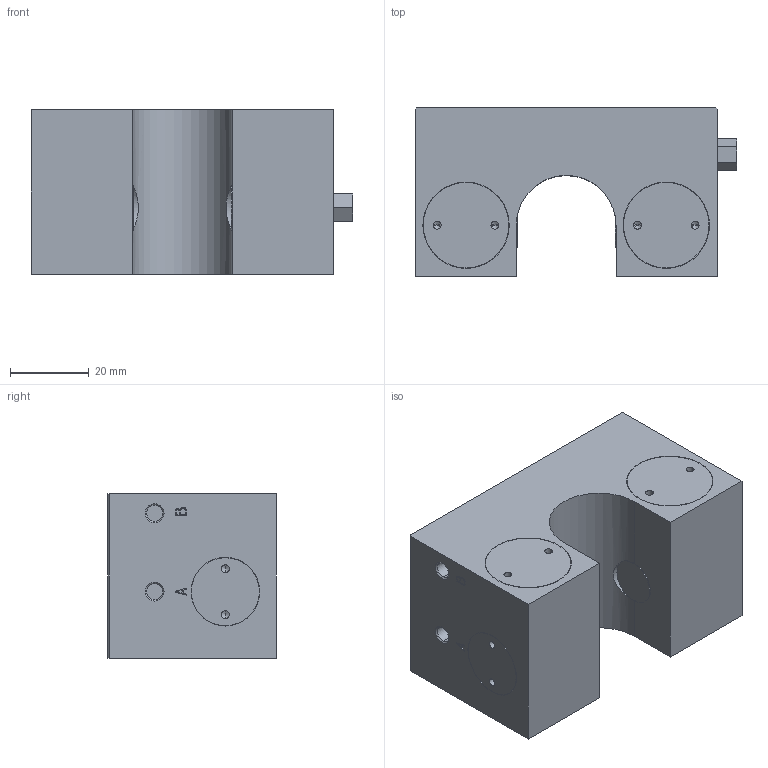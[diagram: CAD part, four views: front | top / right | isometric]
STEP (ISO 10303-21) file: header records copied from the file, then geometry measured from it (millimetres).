
FILE_DESCRIPTION( ( '' ), '1' );
FILE_NAME( 'E:/04 嬴檜蠱滌/0404 ZIMMER/040414 ZIMMER CAD download/MKR/MKR2500A.stp', '2020-04-16T10:10:09', ( '' ), ( '' ), ' ', ' ', ' ' );
FILE_SCHEMA( ( 'automotive_design' ) );
Length unit declared in the file: millimetre
Products named in the file (1): 1
Bounding box: 82 x 43 x 42 mm (x, y, z)
Volume: 111657.4 mm3; surface area: 20931.1 mm2
Topology: 1 solids, 2 shells, 184 faces, 426 edges, 264 vertices
Faces by surface type: plane 87, cylinder 65, cone 32
Entity records: 10132 total; most frequent: CARTESIAN_POINT 1049, DIRECTION 914, STYLED_ITEM 859, PRESENTATION_STYLE_ASSIGNMENT 859, COLOUR_RGB 859, ORIENTED_EDGE 820, EDGE_CURVE 410, CURVE_STYLE 410
